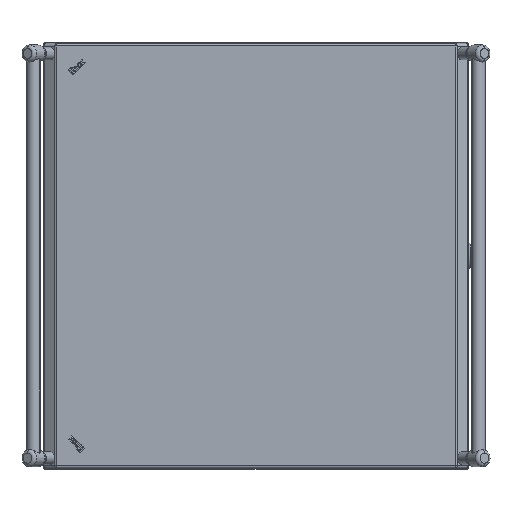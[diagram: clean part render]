
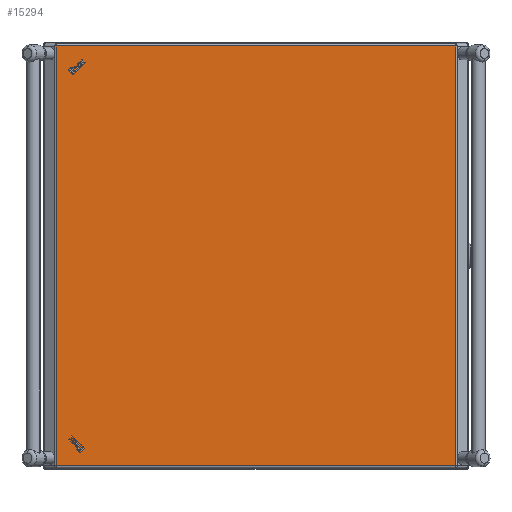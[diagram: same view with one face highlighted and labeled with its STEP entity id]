
A CAD part, top view. The second image highlights one B-rep face of the part: STEP entity #15294.
In plain terms, the highlighted planar face has unit normal (0, 0, 1).
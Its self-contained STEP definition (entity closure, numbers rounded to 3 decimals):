
#633 = ORIENTED_EDGE ( 'NONE', *, *, #23588, .T. ) ;
#2406 = VERTEX_POINT ( 'NONE', #19881 ) ;
#3043 = CARTESIAN_POINT ( 'NONE',  ( 234.294, -246.35, 26.5 ) ) ;
#4483 = CARTESIAN_POINT ( 'NONE',  ( 234.294, 246.35, 26.5 ) ) ;
#5088 = VECTOR ( 'NONE', #20874, 1000. ) ;
#5959 = ORIENTED_EDGE ( 'NONE', *, *, #13508, .T. ) ;
#6308 = VECTOR ( 'NONE', #11713, 1000. ) ;
#7095 = LINE ( 'NONE', #17750, #28941 ) ;
#7417 = EDGE_LOOP ( 'NONE', ( #31864, #9630, #5959, #633 ) ) ;
#9236 = CARTESIAN_POINT ( 'NONE',  ( 249.35, -249.35, 26.5 ) ) ;
#9630 = ORIENTED_EDGE ( 'NONE', *, *, #10234, .T. ) ;
#10234 = EDGE_CURVE ( 'NONE', #2406, #16161, #23453, .T. ) ;
#10541 = VERTEX_POINT ( 'NONE', #4483 ) ;
#11404 = CARTESIAN_POINT ( 'NONE',  ( -235.25, 246.35, 26.5 ) ) ;
#11713 = DIRECTION ( 'NONE',  ( 0., -1., 0. ) ) ;
#11993 = DIRECTION ( 'NONE',  ( 0., 0., 1. ) ) ;
#12496 = FACE_OUTER_BOUND ( 'NONE', #7417, .T. ) ;
#13508 = EDGE_CURVE ( 'NONE', #16161, #10541, #7095, .T. ) ;
#14291 = CARTESIAN_POINT ( 'NONE',  ( -234.294, -249.35, 26.5 ) ) ;
#14741 = DIRECTION ( 'NONE',  ( 1., 0., 0. ) ) ;
#14833 = VECTOR ( 'NONE', #16898, 1000. ) ;
#15294 = ADVANCED_FACE ( 'NONE', ( #12496 ), #20233, .T. ) ;
#16161 = VERTEX_POINT ( 'NONE', #3043 ) ;
#16390 = LINE ( 'NONE', #11404, #14833 ) ;
#16898 = DIRECTION ( 'NONE',  ( -1., 0., 0. ) ) ;
#17750 = CARTESIAN_POINT ( 'NONE',  ( 234.294, -249.35, 26.5 ) ) ;
#19881 = CARTESIAN_POINT ( 'NONE',  ( -234.294, -246.35, 26.5 ) ) ;
#20233 = PLANE ( 'NONE',  #24609 ) ;
#20874 = DIRECTION ( 'NONE',  ( 1., 0., 0. ) ) ;
#22911 = DIRECTION ( 'NONE',  ( 0., 1., 0. ) ) ;
#23453 = LINE ( 'NONE', #25518, #5088 ) ;
#23588 = EDGE_CURVE ( 'NONE', #10541, #31314, #16390, .T. ) ;
#24609 = AXIS2_PLACEMENT_3D ( 'NONE', #9236, #11993, #14741 ) ;
#25518 = CARTESIAN_POINT ( 'NONE',  ( 235.25, -246.35, 26.5 ) ) ;
#25849 = CARTESIAN_POINT ( 'NONE',  ( -234.294, 246.35, 26.5 ) ) ;
#27368 = LINE ( 'NONE', #14291, #6308 ) ;
#28458 = EDGE_CURVE ( 'NONE', #31314, #2406, #27368, .T. ) ;
#28941 = VECTOR ( 'NONE', #22911, 1000. ) ;
#31314 = VERTEX_POINT ( 'NONE', #25849 ) ;
#31864 = ORIENTED_EDGE ( 'NONE', *, *, #28458, .T. ) ;
